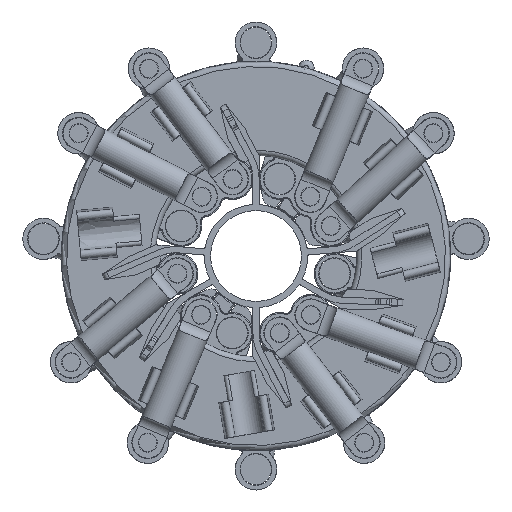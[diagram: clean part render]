
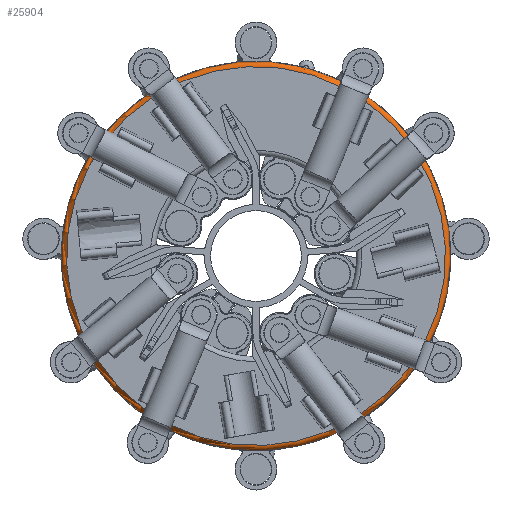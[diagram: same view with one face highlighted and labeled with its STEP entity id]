
A CAD part, front view. The second image highlights one B-rep face of the part: STEP entity #25904.
In plain terms, the highlighted toroidal (fillet/blend) face has major radius 36.7 mm and minor radius 1 mm.
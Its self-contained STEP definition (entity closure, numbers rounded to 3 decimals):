
#116=TOROIDAL_SURFACE('',#28977,36.7,1.);
#2374=FACE_OUTER_BOUND('',#3862,.T.);
#3862=EDGE_LOOP('',(#22349,#22350,#22351,#22352,#22353,#22354));
#7607=CIRCLE('',#26419,36.7);
#8882=CIRCLE('',#28541,37.7);
#8883=CIRCLE('',#28543,37.7);
#8884=CIRCLE('',#28544,37.7);
#9066=CIRCLE('',#28978,1.);
#9575=VERTEX_POINT('',#38807);
#11260=VERTEX_POINT('',#45448);
#11261=VERTEX_POINT('',#45461);
#11263=VERTEX_POINT('',#45483);
#12161=EDGE_CURVE('',#9575,#9575,#7607,.T.);
#14689=EDGE_CURVE('',#11261,#11260,#8882,.T.);
#14690=EDGE_CURVE('',#11263,#11261,#8883,.T.);
#14691=EDGE_CURVE('',#11260,#11263,#8884,.T.);
#15119=EDGE_CURVE('',#9575,#11263,#9066,.T.);
#22349=ORIENTED_EDGE('',*,*,#12161,.T.);
#22350=ORIENTED_EDGE('',*,*,#15119,.T.);
#22351=ORIENTED_EDGE('',*,*,#14690,.T.);
#22352=ORIENTED_EDGE('',*,*,#14689,.T.);
#22353=ORIENTED_EDGE('',*,*,#14691,.T.);
#22354=ORIENTED_EDGE('',*,*,#15119,.F.);
#25904=ADVANCED_FACE('',(#2374),#116,.T.);
#26419=AXIS2_PLACEMENT_3D('',#38808,#30330,#30331);
#28541=AXIS2_PLACEMENT_3D('',#45481,#35687,#35688);
#28543=AXIS2_PLACEMENT_3D('',#45484,#35691,#35692);
#28544=AXIS2_PLACEMENT_3D('',#45485,#35693,#35694);
#28977=AXIS2_PLACEMENT_3D('',#46413,#36797,#36798);
#28978=AXIS2_PLACEMENT_3D('',#46414,#36799,#36800);
#30330=DIRECTION('center_axis',(0.,1.,0.));
#30331=DIRECTION('ref_axis',(0.,0.,
-1.));
#35687=DIRECTION('center_axis',(0.,-1.,0.));
#35688=DIRECTION('ref_axis',(0.,0.,
1.));
#35691=DIRECTION('center_axis',(0.,-1.,0.));
#35692=DIRECTION('ref_axis',(0.,0.,
1.));
#35693=DIRECTION('center_axis',(0.,-1.,0.));
#35694=DIRECTION('ref_axis',(0.,0.,
1.));
#36797=DIRECTION('center_axis',(0.,-1.,0.));
#36798=DIRECTION('ref_axis',(-0.22,0.,0.976));
#36799=DIRECTION('center_axis',(0.976,0.,
0.22));
#36800=DIRECTION('ref_axis',(0.22,0.,-0.976));
#38807=CARTESIAN_POINT('',(-16.445,-11.973,-35.812));
#38808=CARTESIAN_POINT('Origin',(-24.502,-11.973,-0.007));
#45448=CARTESIAN_POINT('',(-15.237,-10.973,36.537));
#45461=CARTESIAN_POINT('',(-14.271,-10.973,36.279));
#45481=CARTESIAN_POINT('Origin',(-24.502,-10.973,-0.007));
#45483=CARTESIAN_POINT('',(-16.225,-10.973,-36.787));
#45484=CARTESIAN_POINT('Origin',(-24.502,-10.973,-0.007));
#45485=CARTESIAN_POINT('Origin',(-24.502,-10.973,-0.007));
#46413=CARTESIAN_POINT('Origin',(-24.502,-10.973,-0.007));
#46414=CARTESIAN_POINT('Origin',(-16.445,-10.973,-35.812));
